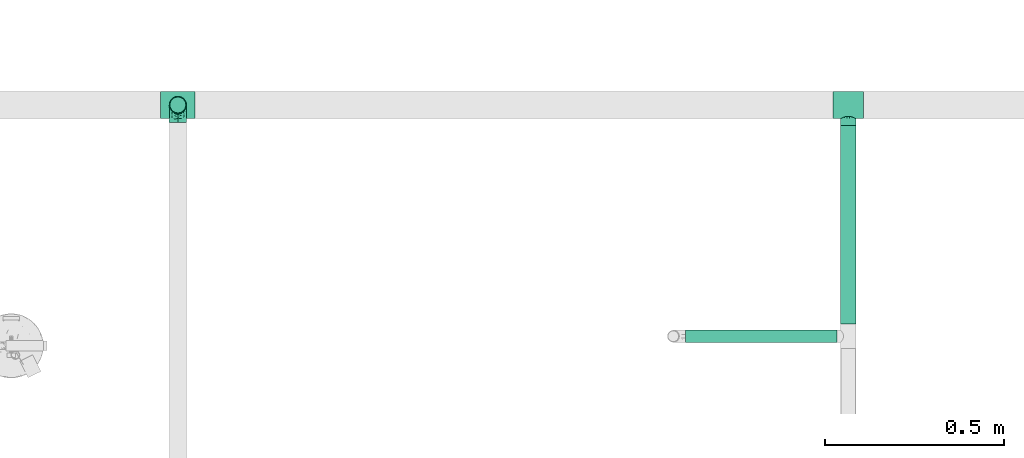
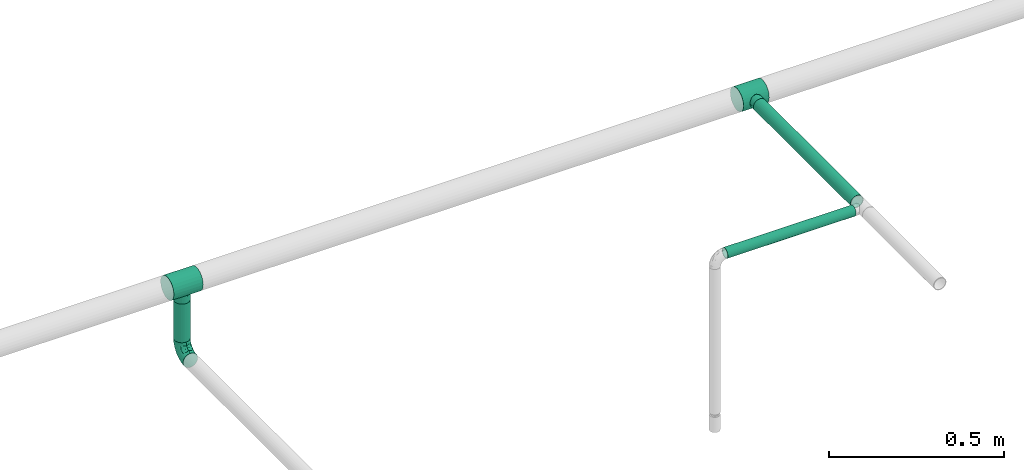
# One storey, part 4 of 95: 3 flow fittings, 3 flow segments.
"""IFC2X3 building model written with IfcOpenShell, lengths in millimetres."""

from ifc_helpers import new_model, entity, si_unit, converted_unit, derived_unit, direction, frame, origin_with_axes, origin_2d_with_axis, place, context, subcontext, project, spatial, hollow_circle, extrude, open_shell, surface_model, source, transform, mapped, type_object, element, save


model = new_model("IFC2X3")

# Units and contexts
model_context = context("Model", 3, precision=0.01, world=frame((0.0, 4.29681676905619e-09, 0.0)), true_north=direction((4.01073788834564e-13, 1.0)))
plan_context = context("Plan", 3, precision=0.01, world=frame((0.0, 4.29681676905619e-09, 0.0)), true_north=direction((4.01073788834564e-13, 1.0)))
body_context = subcontext(model_context, "Body", "Model", "MODEL_VIEW")
ifc_project = project(units=[converted_unit("PLANEANGLEUNIT", "DEGREE", entity("IfcPositiveLengthMeasure", 0.0174532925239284), si_unit("PLANEANGLEUNIT", "RADIAN"), dimensions=[0, 0, 0, 0, 0, 0, 0]), si_unit("AREAUNIT", "SQUARE_METRE"), si_unit("LENGTHUNIT", "METRE", prefix="MILLI"), si_unit("MASSUNIT", "GRAM", prefix="KILO"), si_unit("POWERUNIT", "WATT"), si_unit("PRESSUREUNIT", "PASCAL"), si_unit("FORCEUNIT", "NEWTON", prefix="KILO"), si_unit("ELECTRICVOLTAGEUNIT", "VOLT"), si_unit("ELECTRICCURRENTUNIT", "AMPERE"), si_unit("THERMODYNAMICTEMPERATUREUNIT", "DEGREE_CELSIUS"), si_unit("TIMEUNIT", "SECOND"), si_unit("VOLUMEUNIT", "CUBIC_METRE"), derived_unit("LINEARVELOCITYUNIT", [(si_unit("LENGTHUNIT", "METRE"), 1), (si_unit("TIMEUNIT", "SECOND"), -1)]), derived_unit("VOLUMETRICFLOWRATEUNIT", [(si_unit("VOLUMEUNIT", "CUBIC_METRE"), 1), (si_unit("TIMEUNIT", "SECOND"), -1)]), derived_unit("THERMALTRANSMITTANCEUNIT", [(si_unit("POWERUNIT", "WATT"), 1), (si_unit("THERMODYNAMICTEMPERATUREUNIT", "KELVIN"), -1), (si_unit("AREAUNIT", "SQUARE_METRE"), -1)]), derived_unit("SOUNDPRESSUREUNIT", [(si_unit("PRESSUREUNIT", "PASCAL"), 1)])], contexts=[model_context, plan_context])

# Site, building, storey
site_placement = place(None, frame((0.0, -4.29681676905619e-09, 0.0), z_axis=(0.0, 0.0, 1.0), x_axis=(1.0, 0.0, 0.0)))
site = spatial("IfcSite", under=ifc_project, at=site_placement, CompositionType="ELEMENT")
building_placement = place(site_placement, frame((0.0, 4.29681676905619e-09, 0.0), z_axis=(0.0, 0.0, 1.0), x_axis=(1.0, 0.0, 0.0)))
building = spatial("IfcBuilding", under=site, at=building_placement, Name="mc-building", CompositionType="ELEMENT")
storey_placement = place(building_placement, frame((0.0, 0.0, 210900.0), z_axis=(0.0, 0.0, 1.0), x_axis=(1.0, 0.0, 0.0)))
storey = spatial("IfcBuildingStorey", under=building, at=storey_placement, Name="Nivå F", CompositionType="ELEMENT", Elevation=210900.0)

# Flow fittings
pipe_fitting_type_1 = type_object("IfcPipeFittingType", Name="magi_pipe_fe_tee_centric_90_NOR", PredefinedType="JUNCTION")
shared_shape_1 = source(origin_with_axes(), body_context, "Body", "SurfaceModel", [
    surface_model("IfcShellBasedSurfaceModel", [(42.4, 0.0, 38.1), (42.4, -38.1, 0.0), (42.4, 19.05, 32.99557), (-42.4, 9.86101, -36.80177), (-42.4, 0.0, -38.1), (-42.4, 36.80177, -9.86101), (-42.4, 19.05, -32.99557), (-42.4, 32.99557, -19.05), (-42.4, 26.94077, -26.94077), (-42.4, -38.1, 0.0), (-42.4, -19.05, -32.99557), (-42.4, -26.94077, -26.94077), (-42.4, -9.86101, -36.80177), (-42.4, -32.99557, -19.05), (-42.4, -36.80177, -9.86101), (-42.4, 38.1, 0.0), (-42.4, 32.99557, 19.05), (-42.4, 36.80177, 9.86101), (-42.4, -36.80177, 9.86101), (-42.4, 19.05, 32.99557), (-42.4, 26.94077, 26.94077), (-42.4, 9.86101, 36.80177), (-42.4, 0.0, 38.1), (-42.4, -26.94077, 26.94077), (-42.4, -32.99557, 19.05), (-42.4, -9.86101, 36.80177), (-42.4, -19.05, 32.99557), (42.4, 26.94077, -26.94077), (42.4, 0.0, -38.1), (42.4, 9.86101, -36.80177), (42.4, 19.05, -32.99557), (42.4, 32.99557, -19.05), (42.4, 36.80177, -9.86101), (42.4, -9.86101, -36.80177), (42.4, -26.94077, -26.94077), (42.4, -19.05, -32.99557), (42.4, -32.99557, -19.05), (42.4, -36.80177, -9.86101), (42.4, 38.1, 0.0), (42.4, 36.80177, 9.86101), (42.4, 32.99557, 19.05), (42.4, 26.94077, 26.94077), (42.4, 9.86101, 36.80177), (42.4, -26.94077, 26.94077), (42.4, -32.99557, 19.05), (42.4, -36.80177, 9.86101), (42.4, -19.05, 32.99557), (42.4, -9.86101, 36.80177), (42.4, -37.45089, 4.9305), (19.87843, -37.38077, 7.36803), (20.53922, -37.74039, 3.68402), (16.19602, -35.55954, 13.67951), (3.75245, -31.87869, 20.86526), (21.2, -38.1, 0.0), (42.4, -34.89867, 14.4555), (10.67276, -33.40775, 18.31754), (-10.67466, -33.40836, 18.31643), (-42.4, -34.89867, 14.4555), (-16.20118, -35.56189, 13.6734), (-19.87911, -37.38113, 7.36619), (-42.4, -37.45089, 4.9305), (-20.53956, -37.74057, 3.6831), (-21.2, -38.1, 0.0), (-3.75861, -31.87942, 20.86415), (-42.4, -37.45089, -4.9305), (-19.87911, -37.38113, -7.36619), (-20.53956, -37.74057, -3.6831), (10.67276, -33.40775, -18.31754), (42.4, -34.89867, -14.4555), (16.19602, -35.55954, -13.67951), (20.53922, -37.74039, -3.68402), (42.4, -37.45089, -4.9305), (3.75245, -31.87869, -20.86526), (19.87843, -37.38077, -7.36803), (-3.75861, -31.87942, -20.86415), (-10.67466, -33.40836, -18.31643), (-16.20118, -35.56189, -13.6734), (-42.4, -34.89867, -14.4555), (14.99066, -57.15, -14.99066), (0.0, -57.15, -21.2), (5.48696, -57.15, -20.47763), (10.6, -57.15, -18.35974), (18.35974, -57.15, -10.6), (20.47763, -57.15, -5.48696), (-21.2, -57.15, 0.0), (-10.6, -57.15, 18.35974), (-5.48696, -57.15, -20.47763), (-14.99066, -57.15, -14.99066), (-10.6, -57.15, -18.35974), (-18.35974, -57.15, -10.6), (-20.47763, -57.15, -5.48696), (20.47763, -57.15, 5.48696), (18.35974, -57.15, 10.6), (10.6, -57.15, 18.35974), (14.99066, -57.15, 14.99066), (0.0, -57.15, 21.2), (5.48696, -57.15, 20.47763), (-14.99066, -57.15, 14.99066), (-18.35974, -57.15, 10.6), (-20.47763, -57.15, 5.48696), (-5.48696, -57.15, 20.47763), (21.2, -57.15, 0.0), (-7.21663, -32.64389, 19.59029), (-0.00308, -31.87905, 20.86471), (7.21261, -32.64322, 19.5914), (7.21261, -32.64322, -19.5914), (-0.00308, -31.87905, -20.86471), (-7.21663, -32.64389, -19.59029)], [open_shell([[[0, 1, 2]], [[3, 4, 5]], [[6, 3, 5]], [[5, 7, 8]], [[6, 5, 8]], [[9, 5, 4]], [[10, 11, 12]], [[11, 4, 12]], [[13, 14, 11]], [[9, 11, 14]], [[11, 9, 4]], [[9, 15, 5]], [[16, 17, 15]], [[18, 16, 9]], [[19, 16, 18]], [[20, 16, 19]], [[21, 19, 22]], [[23, 22, 24]], [[19, 18, 24]], [[25, 22, 26]], [[23, 26, 22]], [[24, 22, 19]], [[15, 9, 16]], [[27, 28, 29]], [[27, 29, 30]], [[27, 31, 32]], [[28, 27, 1]], [[1, 27, 32]], [[33, 34, 35]], [[33, 28, 34]], [[36, 1, 37]], [[1, 36, 34]], [[28, 1, 34]], [[32, 38, 1]], [[38, 39, 40]], [[40, 2, 1]], [[2, 40, 41]], [[42, 0, 2]], [[1, 43, 44]], [[44, 45, 1]], [[46, 0, 47]], [[46, 43, 1]], [[1, 0, 46]], [[40, 1, 38]], [[48, 45, 49]], [[1, 48, 50]], [[45, 51, 49]], [[44, 43, 52]], [[1, 50, 53]], [[51, 54, 55]], [[52, 55, 44]], [[48, 49, 50]], [[43, 23, 52]], [[55, 54, 44]], [[56, 57, 58]], [[59, 60, 61]], [[62, 61, 9]], [[59, 58, 18]], [[56, 63, 24]], [[51, 45, 54]], [[24, 57, 56]], [[24, 63, 23]], [[58, 57, 18]], [[63, 52, 23]], [[9, 61, 60]], [[59, 18, 60]], [[43, 26, 23]], [[22, 47, 0]], [[25, 46, 47]], [[21, 0, 42]], [[40, 39, 17]], [[20, 2, 41]], [[16, 41, 40]], [[42, 2, 19]], [[15, 39, 38]], [[26, 46, 25]], [[25, 47, 22]], [[21, 22, 0]], [[42, 19, 21]], [[19, 2, 20]], [[16, 20, 41]], [[17, 16, 40]], [[39, 15, 17]], [[46, 26, 43]], [[15, 38, 32]], [[31, 27, 8]], [[64, 65, 66]], [[5, 32, 31]], [[28, 33, 12]], [[3, 30, 29]], [[4, 29, 28]], [[30, 6, 27]], [[10, 33, 35]], [[67, 68, 69]], [[5, 31, 7]], [[15, 32, 5]], [[1, 70, 71]], [[7, 31, 8]], [[8, 27, 6]], [[6, 30, 3]], [[4, 3, 29]], [[12, 4, 28]], [[33, 10, 12]], [[35, 11, 10]], [[34, 36, 72]], [[9, 66, 62]], [[67, 72, 36]], [[68, 67, 36]], [[34, 72, 11]], [[53, 70, 1]], [[73, 69, 37]], [[73, 71, 70]], [[73, 37, 71]], [[37, 69, 68]], [[74, 75, 13]], [[76, 14, 77]], [[13, 11, 74]], [[76, 77, 75]], [[74, 11, 72]], [[76, 65, 14]], [[65, 64, 14]], [[66, 9, 64]], [[77, 13, 75]], [[34, 11, 35]], [[78, 79, 80]], [[78, 80, 81]], [[78, 82, 83]], [[78, 83, 79]], [[84, 79, 85]], [[86, 87, 88]], [[86, 79, 87]], [[89, 84, 90]], [[87, 79, 89]], [[79, 84, 89]], [[79, 83, 85]], [[91, 92, 83]], [[92, 93, 83]], [[93, 85, 83]], [[93, 92, 94]], [[95, 93, 96]], [[84, 97, 98]], [[99, 84, 98]], [[85, 95, 100]], [[85, 97, 84]], [[93, 95, 85]], [[83, 101, 91]], [[99, 61, 84]], [[58, 98, 97]], [[99, 98, 59]], [[97, 85, 56]], [[61, 62, 84]], [[59, 98, 58]], [[100, 63, 102]], [[56, 58, 97]], [[95, 52, 103]], [[93, 104, 96]], [[102, 85, 100]], [[102, 56, 85]], [[99, 59, 61]], [[96, 52, 95]], [[49, 92, 91]], [[50, 101, 53]], [[50, 49, 91]], [[94, 92, 51]], [[95, 63, 100]], [[104, 52, 96]], [[93, 55, 104]], [[93, 94, 55]], [[55, 94, 51]], [[51, 92, 49]], [[101, 50, 91]], [[103, 63, 95]], [[83, 70, 101]], [[69, 82, 78]], [[83, 82, 73]], [[78, 81, 67]], [[70, 53, 101]], [[73, 82, 69]], [[80, 72, 105]], [[67, 69, 78]], [[79, 74, 106]], [[88, 107, 86]], [[66, 84, 62]], [[105, 81, 80]], [[105, 67, 81]], [[75, 88, 87]], [[83, 73, 70]], [[90, 65, 89]], [[89, 76, 87]], [[66, 65, 90]], [[79, 72, 80]], [[86, 107, 74]], [[74, 79, 86]], [[75, 107, 88]], [[75, 87, 76]], [[76, 89, 65]], [[84, 66, 90]], [[106, 72, 79]]])]),
])
flow_fitting_1_placement = place(storey_placement, frame((527390.10162, 441860.92369, 4310.0), z_axis=(0.0, 0.0, -1.0), x_axis=(-1.0, 0.0, 0.0)))
element("IfcFlowFitting", 1, at=flow_fitting_1_placement, inside=storey, type_object=pipe_fitting_type_1, Name="magi_pipe_fe_tee_centric_90_NOR", context=body_context, shape_type="MappedRepresentation", body=[
    mapped(shared_shape_1, transform((0.0, 0.0, 0.0), scale=1.0)),
])
shared_shape_2 = source(origin_with_axes(), body_context, "Body", "SurfaceModel", [
    surface_model("IfcShellBasedSurfaceModel", [(-48.4, 9.86101, -36.80177), (-48.4, 0.0, -38.1), (-48.4, 36.80177, -9.86101), (-48.4, 19.05, -32.99557), (-48.4, 32.99557, -19.05), (-48.4, 26.94077, -26.94077), (-48.4, -38.1, 0.0), (-48.4, -19.05, -32.99557), (-48.4, -26.94077, -26.94077), (-48.4, -9.86101, -36.80177), (-48.4, -32.99557, -19.05), (-48.4, -36.80177, -9.86101), (-48.4, 38.1, 0.0), (-48.4, 32.99557, 19.05), (-48.4, 36.80177, 9.86101), (-48.4, -36.80177, 9.86101), (-48.4, 19.05, 32.99557), (-48.4, 26.94077, 26.94077), (-48.4, 9.86101, 36.80177), (-48.4, 0.0, 38.1), (-48.4, -26.94077, 26.94077), (-48.4, -32.99557, 19.05), (-48.4, -9.86101, 36.80177), (-48.4, -19.05, 32.99557), (48.4, 0.0, -38.1), (48.4, 9.86101, -36.80177), (48.4, 19.05, -32.99557), (48.4, 26.94077, -26.94077), (48.4, 32.99557, -19.05), (48.4, 36.80177, -9.86101), (48.4, -26.94077, -26.94077), (48.4, -38.1, 0.0), (48.4, -9.86101, -36.80177), (48.4, -19.05, -32.99557), (48.4, -32.99557, -19.05), (48.4, -36.80177, -9.86101), (48.4, 36.80177, 9.86101), (48.4, 32.99557, 19.05), (48.4, 19.05, 32.99557), (48.4, 0.0, 38.1), (48.4, 26.94077, 26.94077), (48.4, 9.86101, 36.80177), (48.4, -32.99557, 19.05), (48.4, -26.94077, 26.94077), (48.4, -36.80177, 9.86101), (48.4, -19.05, 32.99557), (48.4, -9.86101, 36.80177), (48.4, 38.1, 0.0), (22.67163, -37.14799, 8.46387), (24.2, -38.1, 0.0), (18.4612, -34.73882, 15.64686), (12.20123, -31.85656, 20.89904), (4.31503, -29.74205, 23.81219), (48.4, -34.89867, 14.4555), (-18.46661, -34.7417, 15.64047), (-48.4, -34.89867, 14.4555), (-24.2, -38.1, 0.0), (-22.67247, -37.1485, 8.46164), (-12.20341, -31.85739, 20.89777), (-4.32227, -29.7431, 23.81088), (12.20123, -31.85656, -20.89904), (-18.46661, -34.7417, -15.64047), (-48.4, -34.89867, -14.4555), (4.31503, -29.74205, -23.81219), (18.4612, -34.73882, -15.64686), (22.67163, -37.14799, -8.46387), (48.4, -34.89867, -14.4555), (-4.32227, -29.7431, -23.81088), (-12.20341, -31.85739, -20.89777), (-22.67247, -37.1485, -8.46164), (0.0, -57.15, -24.2), (6.26342, -57.15, -23.37541), (12.1, -57.15, -20.95781), (12.1, -57.15, 20.95781), (17.11198, -57.15, -17.11198), (20.95781, -57.15, -12.1), (23.37541, -57.15, -6.26342), (-12.1, -57.15, -20.95781), (-20.95781, -57.15, -12.1), (-17.11198, -57.15, -17.11198), (-6.26342, -57.15, -23.37541), (-23.37541, -57.15, -6.26342), (-24.2, -57.15, 0.0), (24.2, -57.15, 0.0), (23.37541, -57.15, 6.26342), (20.95781, -57.15, 12.1), (-23.37541, -57.15, 6.26342), (17.11198, -57.15, 17.11198), (6.26342, -57.15, 23.37541), (-17.11198, -57.15, 17.11198), (-20.95781, -57.15, 12.1), (-12.1, -57.15, 20.95781), (0.0, -57.15, 24.2), (-6.26342, -57.15, 23.37541), (-23.43623, -37.62425, 4.23082), (-0.00362, -29.74257, 23.81153), (8.25813, -30.7993, 22.35562), (23.43582, -37.62399, 4.23193), (23.43582, -37.62399, -4.23193), (-23.43623, -37.62425, -4.23082), (8.25813, -30.7993, -22.35562), (-0.00362, -29.74257, -23.81153)], [open_shell([[[0, 1, 2]], [[3, 0, 2]], [[2, 4, 5]], [[3, 2, 5]], [[6, 2, 1]], [[7, 8, 9]], [[8, 1, 9]], [[10, 11, 8]], [[6, 8, 11]], [[8, 6, 1]], [[6, 12, 2]], [[13, 14, 12]], [[13, 12, 15]], [[16, 13, 15]], [[17, 13, 16]], [[18, 16, 19]], [[20, 19, 21]], [[16, 15, 21]], [[22, 19, 23]], [[20, 23, 19]], [[21, 19, 16]], [[6, 15, 12]], [[24, 25, 26]], [[24, 26, 27]], [[27, 28, 29]], [[24, 27, 30]], [[31, 27, 29]], [[32, 30, 33]], [[32, 24, 30]], [[34, 31, 35]], [[31, 34, 30]], [[27, 31, 30]], [[29, 36, 31]], [[36, 37, 31]], [[31, 37, 38]], [[38, 39, 31]], [[38, 37, 40]], [[39, 38, 41]], [[42, 39, 43]], [[44, 31, 42]], [[45, 39, 46]], [[39, 45, 43]], [[39, 42, 31]], [[36, 29, 47]], [[31, 44, 48]], [[48, 49, 31]], [[44, 50, 48]], [[42, 43, 51]], [[51, 50, 42]], [[52, 51, 43]], [[43, 20, 52]], [[42, 50, 53]], [[54, 21, 55]], [[56, 57, 6]], [[15, 6, 57]], [[57, 54, 15]], [[58, 59, 20]], [[58, 21, 54]], [[21, 58, 20]], [[54, 55, 15]], [[59, 52, 20]], [[50, 44, 53]], [[43, 23, 20]], [[19, 46, 39]], [[22, 45, 46]], [[18, 39, 41]], [[37, 36, 14]], [[17, 38, 40]], [[13, 40, 37]], [[41, 38, 16]], [[12, 36, 47]], [[23, 45, 22]], [[22, 46, 19]], [[18, 19, 39]], [[41, 16, 18]], [[16, 38, 17]], [[13, 17, 40]], [[14, 13, 37]], [[36, 12, 14]], [[45, 23, 43]], [[12, 47, 29]], [[28, 27, 4]], [[2, 29, 28]], [[24, 32, 9]], [[0, 26, 25]], [[1, 25, 24]], [[26, 3, 27]], [[7, 32, 33]], [[4, 27, 5]], [[12, 29, 2]], [[2, 28, 4]], [[5, 27, 3]], [[26, 0, 3]], [[1, 0, 25]], [[9, 1, 24]], [[32, 7, 9]], [[33, 8, 7]], [[30, 34, 60]], [[61, 11, 62]], [[60, 63, 30]], [[34, 64, 60]], [[30, 63, 8]], [[35, 31, 65]], [[65, 64, 35]], [[49, 65, 31]], [[35, 64, 66]], [[67, 68, 8]], [[64, 34, 66]], [[10, 8, 68]], [[68, 61, 10]], [[67, 8, 63]], [[61, 69, 11]], [[69, 6, 11]], [[6, 69, 56]], [[61, 62, 10]], [[30, 8, 33]], [[70, 71, 72]], [[73, 70, 72]], [[74, 75, 76]], [[74, 76, 72]], [[73, 77, 70]], [[77, 78, 79]], [[77, 80, 70]], [[77, 81, 78]], [[81, 77, 82]], [[77, 73, 82]], [[83, 72, 76]], [[83, 84, 85]], [[83, 85, 73]], [[73, 86, 82]], [[73, 85, 87]], [[86, 73, 88]], [[86, 89, 90]], [[86, 88, 89]], [[91, 92, 93]], [[92, 91, 89]], [[88, 92, 89]], [[73, 72, 83]], [[86, 94, 82]], [[54, 90, 89]], [[86, 90, 57]], [[89, 91, 58]], [[94, 56, 82]], [[57, 90, 54]], [[58, 93, 59]], [[58, 54, 89]], [[92, 52, 95]], [[58, 91, 93]], [[73, 96, 88]], [[97, 83, 49]], [[86, 57, 94]], [[88, 52, 92]], [[48, 85, 84]], [[97, 48, 84]], [[85, 50, 87]], [[92, 59, 93]], [[96, 52, 88]], [[73, 51, 96]], [[73, 87, 51]], [[51, 87, 50]], [[50, 85, 48]], [[83, 97, 84]], [[95, 59, 92]], [[76, 98, 83]], [[64, 75, 74]], [[99, 69, 81]], [[76, 75, 65]], [[74, 72, 60]], [[98, 49, 83]], [[65, 75, 64]], [[71, 63, 100]], [[60, 64, 74]], [[70, 67, 101]], [[70, 63, 71]], [[100, 60, 72]], [[100, 72, 71]], [[76, 65, 98]], [[68, 77, 79]], [[68, 80, 77]], [[69, 78, 81]], [[79, 78, 61]], [[99, 82, 56]], [[67, 70, 80]], [[80, 68, 67]], [[101, 63, 70]], [[68, 79, 61]], [[61, 78, 69]], [[82, 99, 81]]])]),
])
flow_fitting_2_placement = place(storey_placement, frame((525517.79805, 441860.92369, 4310.0), z_axis=(0.0, 1.0, 0.0), x_axis=(-1.0, 0.0, 0.0)))
element("IfcFlowFitting", 2, at=flow_fitting_2_placement, inside=storey, type_object=pipe_fitting_type_1, Name="magi_pipe_fe_tee_centric_90_NOR", context=body_context, shape_type="MappedRepresentation", body=[
    mapped(shared_shape_2, transform((0.0, 0.0, 0.0), scale=1.0)),
])
pipe_fitting_type_2 = type_object("IfcPipeFittingType", Name="magi_pipe_fe_elbow_short_001", PredefinedType="BEND")
shared_shape_3 = source(origin_with_axes(), body_context, "Body", "SurfaceModel", [
    surface_model("IfcShellBasedSurfaceModel", [(-48.4, 6.26342, -23.37541), (-48.4, 0.0, -24.2), (-48.4, 17.11198, -17.11198), (-48.4, 12.1, -20.95781), (-48.4, 23.37541, -6.26342), (-48.4, 20.95781, -12.1), (-48.4, -12.1, -20.95781), (-48.4, -17.11198, -17.11198), (-48.4, -20.95781, -12.1), (-48.4, -6.26342, -23.37541), (-48.4, -23.37541, -6.26342), (-48.4, -24.2, 0.0), (-48.4, -23.37541, 6.26342), (-48.4, 23.37541, 6.26342), (-48.4, 6.26342, 23.37541), (-48.4, 20.95781, 12.1), (-48.4, 17.11198, 17.11198), (-48.4, 12.1, 20.95781), (-48.4, -12.1, 20.95781), (-48.4, -20.95781, 12.1), (-48.4, -17.11198, 17.11198), (-48.4, -6.26342, 23.37541), (-48.4, 0.0, 24.2), (-48.4, 24.2, 0.0), (-17.11198, 48.4, -17.11198), (0.0, 48.4, -24.2), (-6.26342, 48.4, -23.37541), (-12.1, 48.4, -20.95781), (-20.95781, 48.4, -12.1), (-23.37541, 48.4, -6.26342), (12.1, 48.4, -20.95781), (20.95781, 48.4, -12.1), (17.11198, 48.4, -17.11198), (6.26342, 48.4, -23.37541), (23.37541, 48.4, -6.26342), (23.37541, 48.4, 6.26342), (24.2, 48.4, 0.0), (-23.37541, 48.4, 6.26342), (-6.26342, 48.4, 23.37541), (-17.11198, 48.4, 17.11198), (-20.95781, 48.4, 12.1), (-12.1, 48.4, 20.95781), (12.1, 48.4, 20.95781), (17.11198, 48.4, 17.11198), (20.95781, 48.4, 12.1), (0.0, 48.4, 24.2), (6.26342, 48.4, 23.37541), (-24.2, 48.4, 0.0), (-35.50368, -18.80076, 13.58523), (-31.77913, -13.9618, 18.03279), (-34.50859, -21.43683, 0.0), (-21.39243, -15.41147, 12.21413), (-32.16301, -21.12203, 7.54749), (21.12203, 32.16301, 7.54749), (17.07617, 18.95745, 6.20374), (18.67365, 20.61718, 0.0), (-23.65565, 38.62451, 10.51816), (-20.21592, 37.67665, 15.89859), (-35.56981, -9.15108, 21.77256), (-36.96985, -3.20584, 23.78612), (-33.88786, 3.70953, 24.15875), (-8.84062, -10.8048, 0.0), (-18.95745, -17.07617, 6.20374), (-20.61718, -18.67365, 0.0), (-18.69715, -5.87343, 20.10488), (-24.09336, -0.21717, 23.45593), (-2.08262, -4.09091, 10.90396), (-0.40561, 0.49936, 14.45569), (-8.22634, -5.79523, 14.90978), (-37.83027, 20.17367, 15.88169), (-8.41063, 23.79825, 24.15658), (-17.92529, 17.92529, 23.61199), (-14.40991, 10.5752, 24.07534), (-41.86919, 14.6551, 19.71874), (-9.03342, 41.7434, 22.66763), (-3.31671, 36.19978, 24.14056), (-38.63654, 23.65174, 10.51655), (-38.25939, 25.77657, 5.32075), (-30.0475, 30.0475, 9.04616), (-37.30448, 9.49113, 22.86036), (-6.31688, 16.20853, 23.76192), (-12.02449, 4.43954, 22.59792), (-2.47225, 13.07459, 22.23951), (-4.32281, 4.32281, 19.78555), (13.9618, 31.77913, 18.03279), (15.41147, 21.39243, 12.21413), (18.80076, 35.50367, 13.58523), (-25.72741, 16.42033, 22.38358), (-26.59277, 10.36599, 23.76692), (3.20584, 36.96985, 23.78612), (9.15107, 35.56981, 21.77256), (5.87343, 18.69715, 20.10488), (21.43683, 34.50859, 0.0), (-23.74657, 5.93004, 24.18967), (-22.40302, 25.55556, 19.88516), (-33.3245, 16.42738, 20.3789), (-25.47357, 39.04012, 5.19167), (-30.32947, 31.74105, 4.25904), (11.04589, 19.60124, 16.55181), (-27.44219, 36.3, 0.0), (-10.46605, 32.79159, 23.04712), (-13.80953, 25.05111, 23.26361), (-17.54489, 31.27863, 20.33941), (-19.27982, 23.42922, 22.01925), (-14.78447, 40.57947, 19.81913), (-19.60124, -11.04589, 16.55181), (-25.09785, 32.07921, 13.69695), (-25.5093, 27.02629, 17.14196), (-31.08127, 26.00324, 13.49448), (0.21717, 24.09336, 23.45593), (5.51075, 8.40547, 15.32867), (-11.48597, -10.80284, 11.35932), (1.43689, -3.14326, 6.54995), (7.34882, 4.31024, 8.4514), (7.50574, 2.51208, 3.62663), (12.46453, 10.09451, 5.71609), (12.1504, 12.55391, 10.15678), (-36.3, 27.44219, 0.0), (-6.52237, -9.62364, 7.02633), (2.93595, -2.93595, 0.0), (10.8048, 8.84062, 0.0), (-19.60124, -11.04589, -16.55181), (-31.77913, -13.9618, -18.03279), (-18.69715, -5.87343, -20.10488), (-21.39243, -15.41147, -12.21413), (-37.67665, 20.21591, -15.89859), (-40.57947, 14.78447, -19.81913), (-39.04012, 25.47357, -5.19167), (-32.16301, -21.12203, -7.54749), (-30.0475, 30.0475, -9.04616), (-38.62452, 23.65565, -10.51816), (-18.95745, -17.07617, -6.20374), (-23.42922, 19.27982, -22.01926), (-25.05111, 13.80953, -23.26361), (-31.27863, 17.54489, -20.33941), (-14.6551, 41.86919, -19.71874), (-20.17367, 37.83026, -15.88169), (9.15108, 35.56981, -21.77256), (5.87343, 18.69715, -20.10488), (0.21717, 24.09336, -23.45593), (-41.7434, 9.03342, -22.66763), (-35.50368, -18.80076, -13.58523), (-35.56981, -9.15108, -21.77256), (-16.42033, 25.72741, -22.38358), (-9.49113, 37.30447, -22.86036), (-10.36599, 26.59277, -23.76692), (-36.96985, -3.20584, -23.78612), (-23.79826, 8.41063, -24.15658), (-17.92529, 17.92529, -23.61199), (-10.5752, 14.40991, -24.07534), (-36.19978, 3.31671, -24.14056), (-25.77657, 38.25939, -5.32075), (-23.65174, 38.63654, -10.51655), (-32.79159, 10.46605, -23.04712), (-31.74105, 30.32946, -4.25904), (-5.93004, 23.74657, -24.18967), (-25.55556, 22.40302, -19.88516), (-16.42738, 33.3245, -20.3789), (3.20584, 36.96985, -23.78612), (-3.70953, 33.88785, -24.15875), (18.80076, 35.50367, -13.58523), (13.9618, 31.77913, -18.03279), (7.50574, 2.51208, -3.62663), (12.46453, 10.09451, -5.71609), (-16.20853, 6.31688, -23.76192), (-4.43954, 12.02449, -22.59792), (-13.07459, 2.47225, -22.23951), (1.43689, -3.14326, -6.54995), (-6.52237, -9.62364, -7.02632), (-2.08262, -4.09091, -10.90396), (15.41147, 21.39243, -12.21413), (21.12203, 32.16301, -7.54749), (17.07617, 18.95745, -6.20374), (-32.07921, 25.09785, -13.69695), (11.04589, 19.60124, -16.55181), (12.1504, 12.55391, -10.15678), (5.51075, 8.40547, -15.32867), (-27.02629, 25.5093, -17.14196), (-26.00324, 31.08127, -13.49448), (-24.09336, -0.21717, -23.45593), (-4.32281, 4.32281, -19.78555), (-8.22634, -5.79524, -14.90978), (-11.48597, -10.80284, -11.35931), (-0.40561, 0.49936, -14.45569), (7.34882, 4.31024, -8.4514)], [open_shell([[[0, 1, 2]], [[3, 0, 2]], [[4, 5, 2]], [[6, 2, 1]], [[4, 2, 6]], [[7, 8, 6]], [[1, 9, 6]], [[8, 10, 6]], [[6, 10, 4]], [[11, 12, 10]], [[13, 4, 10]], [[14, 13, 10]], [[15, 13, 16]], [[13, 14, 17]], [[16, 13, 17]], [[10, 18, 14]], [[19, 20, 12]], [[20, 10, 12]], [[21, 22, 18]], [[20, 18, 10]], [[18, 22, 14]], [[23, 4, 13]], [[24, 25, 26]], [[24, 26, 27]], [[24, 28, 29]], [[25, 24, 30]], [[30, 24, 29]], [[30, 31, 32]], [[30, 33, 25]], [[30, 34, 31]], [[29, 34, 30]], [[34, 35, 36]], [[34, 29, 37]], [[34, 37, 38]], [[39, 37, 40]], [[41, 38, 37]], [[41, 37, 39]], [[38, 42, 34]], [[35, 43, 44]], [[35, 34, 43]], [[42, 45, 46]], [[34, 42, 43]], [[38, 45, 42]], [[37, 29, 47]], [[20, 48, 49]], [[12, 11, 50]], [[51, 48, 52]], [[53, 54, 55]], [[48, 20, 19]], [[12, 52, 19]], [[40, 56, 57]], [[49, 18, 20]], [[49, 58, 18]], [[22, 59, 60]], [[61, 62, 63]], [[58, 64, 65]], [[66, 67, 68]], [[15, 16, 69]], [[70, 71, 72]], [[17, 73, 16]], [[21, 59, 22]], [[38, 74, 75]], [[22, 60, 14]], [[15, 69, 76]], [[16, 73, 69]], [[23, 13, 77]], [[13, 15, 76]], [[77, 76, 78]], [[14, 79, 17]], [[80, 81, 82]], [[68, 83, 64]], [[84, 43, 42]], [[85, 86, 84]], [[87, 79, 88]], [[18, 58, 21]], [[45, 89, 46]], [[53, 35, 44]], [[45, 38, 75]], [[84, 90, 91]], [[44, 86, 53]], [[92, 35, 53]], [[86, 44, 43]], [[90, 42, 46]], [[53, 55, 92]], [[88, 93, 72]], [[54, 53, 85]], [[87, 94, 95]], [[78, 96, 97]], [[98, 84, 91]], [[99, 96, 47]], [[79, 14, 60]], [[96, 78, 56]], [[62, 52, 63]], [[57, 39, 40]], [[100, 70, 75]], [[101, 102, 103]], [[12, 50, 52]], [[104, 41, 39]], [[74, 38, 41]], [[57, 102, 104]], [[105, 64, 49]], [[90, 84, 42]], [[40, 37, 56]], [[56, 106, 57]], [[102, 57, 107]], [[95, 107, 69]], [[76, 108, 78]], [[100, 101, 70]], [[89, 75, 109]], [[64, 58, 49]], [[63, 52, 50]], [[59, 58, 65]], [[105, 49, 51]], [[64, 83, 81]], [[89, 90, 46]], [[36, 35, 92]], [[109, 82, 91]], [[109, 91, 90]], [[91, 83, 110]], [[111, 68, 105]], [[66, 68, 111]], [[62, 51, 52]], [[66, 112, 113]], [[114, 115, 113]], [[98, 85, 84]], [[52, 48, 19]], [[49, 48, 51]], [[84, 86, 43]], [[53, 86, 85]], [[88, 79, 60]], [[73, 79, 95]], [[96, 56, 37]], [[78, 108, 106]], [[87, 103, 94]], [[100, 74, 104]], [[108, 69, 107]], [[78, 97, 77]], [[88, 72, 71]], [[109, 75, 70]], [[81, 72, 65]], [[70, 72, 80]], [[75, 89, 45]], [[90, 89, 109]], [[58, 59, 21]], [[60, 59, 65]], [[67, 83, 68]], [[110, 113, 116]], [[88, 60, 93]], [[87, 88, 71]], [[103, 87, 71]], [[79, 87, 95]], [[101, 103, 71]], [[94, 103, 102]], [[47, 96, 37]], [[96, 99, 97]], [[99, 117, 97]], [[97, 117, 77]], [[23, 77, 117]], [[13, 76, 77]], [[60, 65, 93]], [[65, 72, 93]], [[70, 101, 71]], [[102, 101, 100]], [[69, 108, 76]], [[106, 108, 107]], [[57, 106, 107]], [[78, 106, 56]], [[57, 104, 39]], [[100, 104, 102]], [[102, 107, 94]], [[95, 94, 107]], [[64, 81, 65]], [[82, 81, 83]], [[91, 82, 83]], [[80, 82, 109]], [[70, 80, 109]], [[81, 80, 72]], [[79, 73, 17]], [[69, 73, 95]], [[104, 74, 41]], [[75, 74, 100]], [[62, 61, 118]], [[111, 62, 118]], [[113, 115, 116]], [[119, 118, 61]], [[111, 105, 51]], [[113, 112, 114]], [[120, 55, 54]], [[68, 64, 105]], [[91, 110, 98]], [[116, 98, 110]], [[62, 111, 51]], [[66, 111, 118]], [[112, 66, 118]], [[67, 113, 110]], [[118, 119, 112]], [[114, 112, 119]], [[119, 120, 114]], [[115, 120, 54]], [[120, 115, 114]], [[116, 54, 85]], [[54, 116, 115]], [[116, 85, 98]], [[113, 67, 66]], [[83, 67, 110]], [[121, 122, 123]], [[122, 121, 124]], [[5, 125, 2]], [[2, 126, 3]], [[117, 127, 23]], [[50, 10, 128]], [[127, 129, 130]], [[128, 131, 63]], [[132, 133, 134]], [[24, 135, 136]], [[137, 138, 139]], [[3, 140, 0]], [[128, 8, 141]], [[142, 6, 9]], [[128, 63, 50]], [[5, 4, 130]], [[8, 7, 141]], [[143, 144, 145]], [[146, 9, 1]], [[147, 148, 149]], [[8, 128, 10]], [[124, 141, 122]], [[150, 1, 0]], [[151, 152, 129]], [[125, 134, 126]], [[153, 147, 150]], [[127, 154, 129]], [[145, 155, 149]], [[47, 29, 151]], [[143, 156, 157]], [[152, 29, 28]], [[25, 158, 159]], [[122, 7, 6]], [[24, 27, 135]], [[144, 27, 26]], [[32, 160, 161]], [[25, 33, 158]], [[120, 162, 163]], [[130, 125, 5]], [[24, 136, 28]], [[0, 140, 150]], [[30, 161, 137]], [[142, 122, 6]], [[25, 159, 26]], [[164, 165, 166]], [[167, 168, 169]], [[31, 160, 32]], [[161, 30, 32]], [[170, 160, 171]], [[131, 128, 124]], [[36, 92, 34]], [[34, 92, 171]], [[172, 171, 55]], [[34, 171, 31]], [[144, 26, 159]], [[130, 173, 125]], [[174, 175, 176]], [[136, 152, 28]], [[30, 137, 33]], [[122, 142, 123]], [[134, 125, 177]], [[157, 177, 136]], [[152, 178, 129]], [[153, 133, 147]], [[146, 150, 179]], [[146, 142, 9]], [[11, 10, 50]], [[179, 166, 123]], [[179, 123, 142]], [[123, 180, 181]], [[138, 137, 161]], [[55, 171, 92]], [[158, 137, 139]], [[174, 161, 170]], [[138, 180, 165]], [[180, 138, 176]], [[124, 121, 182]], [[176, 183, 180]], [[61, 131, 168]], [[169, 168, 182]], [[172, 170, 171]], [[122, 141, 7]], [[128, 141, 124]], [[171, 160, 31]], [[161, 160, 170]], [[145, 144, 159]], [[135, 144, 157]], [[127, 130, 4]], [[129, 178, 173]], [[143, 132, 156]], [[153, 140, 126]], [[178, 136, 177]], [[129, 154, 151]], [[145, 149, 148]], [[179, 150, 147]], [[165, 149, 139]], [[147, 149, 164]], [[150, 146, 1]], [[142, 146, 179]], [[137, 158, 33]], [[159, 158, 139]], [[174, 138, 161]], [[184, 169, 183]], [[145, 159, 155]], [[143, 145, 148]], [[132, 143, 148]], [[144, 143, 157]], [[133, 132, 148]], [[156, 132, 134]], [[23, 127, 4]], [[127, 117, 154]], [[117, 99, 154]], [[154, 99, 151]], [[47, 151, 99]], [[29, 152, 151]], [[159, 139, 155]], [[139, 149, 155]], [[147, 133, 148]], [[134, 133, 153]], [[136, 178, 152]], [[173, 178, 177]], [[125, 173, 177]], [[129, 173, 130]], [[125, 126, 2]], [[153, 126, 134]], [[134, 177, 156]], [[157, 156, 177]], [[138, 165, 139]], [[166, 165, 180]], [[123, 166, 180]], [[164, 166, 179]], [[147, 164, 179]], [[165, 164, 149]], [[144, 135, 27]], [[136, 135, 157]], [[126, 140, 3]], [[150, 140, 153]], [[182, 131, 124]], [[168, 119, 61]], [[119, 167, 162]], [[63, 131, 61]], [[172, 163, 175]], [[172, 55, 120]], [[123, 181, 121]], [[182, 121, 181]], [[175, 174, 170]], [[176, 138, 174]], [[169, 182, 181]], [[131, 182, 168]], [[183, 169, 181]], [[167, 169, 184]], [[162, 167, 184]], [[119, 168, 167]], [[163, 162, 184]], [[120, 119, 162]], [[175, 163, 184]], [[120, 163, 172]], [[176, 175, 184]], [[172, 175, 170]], [[180, 183, 181]], [[184, 183, 176]]])]),
])
flow_fitting_3_placement = place(storey_placement, frame((525517.79805, 441860.92369, 4070.0), z_axis=(-1.0, 0.0, 0.0), x_axis=(0.0, 0.0, -1.0)))
element("IfcFlowFitting", 3, at=flow_fitting_3_placement, inside=storey, type_object=pipe_fitting_type_2, Name="magi_pipe_fe_elbow_short_001", context=body_context, shape_type="MappedRepresentation", body=[
    mapped(shared_shape_3, transform((0.0, 0.0, 0.0), scale=1.0)),
])

# Flow segments
pipe_segment_type = type_object("IfcPipeSegmentType", Name="Stålrør normaltykke", PredefinedType="RIGIDSEGMENT")
shared_shape_4 = source(origin_with_axes(), body_context, "Body", "SweptSolid", [
    extrude(hollow_circle(Radius=21.2, WallThickness=2.0, at=origin_2d_with_axis()), frame((0.0, 0.0, 0.0), z_axis=(1.0, 0.0, 0.0), x_axis=(0.0, 1.0, 0.0)), (0.0, 0.0, 1.0), 555.3),
])
flow_segment_1_placement = place(storey_placement, frame((527390.10162, 441803.77369, 4310.0), z_axis=(0.0, 0.0, 1.0), x_axis=(0.0, -1.0, 0.0)))
element("IfcFlowSegment", 4, at=flow_segment_1_placement, inside=storey, type_object=pipe_segment_type, Name="Stålrør normaltykke", context=body_context, shape_type="MappedRepresentation", body=[
    mapped(shared_shape_4, transform((0.0, 0.0, 0.0), scale=1.0)),
])
shared_shape_5 = source(origin_with_axes(), body_context, "Body", "SweptSolid", [
    extrude(hollow_circle(Radius=16.9, WallThickness=2.0, at=origin_2d_with_axis()), frame((0.0, 0.0, 0.0), z_axis=(1.0, 0.0, 0.0), x_axis=(0.0, 1.0, 0.0)), (0.0, 0.0, 1.0), 423.0),
])
flow_segment_2_placement = place(storey_placement, frame((527358.30162, 441214.84363, 4310.0), z_axis=(0.0, 0.0, 1.0), x_axis=(-1.0, 0.0, 0.0)))
element("IfcFlowSegment", 5, at=flow_segment_2_placement, inside=storey, type_object=pipe_segment_type, Name="Stålrør normaltykke", context=body_context, shape_type="MappedRepresentation", body=[
    mapped(shared_shape_5, transform((0.0, 0.0, 0.0), scale=1.0)),
])
shared_shape_6 = source(origin_with_axes(), body_context, "Body", "SweptSolid", [
    extrude(hollow_circle(Radius=24.1, WallThickness=2.0, at=origin_2d_with_axis()), frame((0.0, 0.0, 0.0), z_axis=(1.0, 0.0, 0.0), x_axis=(0.0, 1.0, 0.0)), (0.0, 0.0, 1.0), 134.4),
])
flow_segment_3_placement = place(storey_placement, frame((525517.79805, 441860.92369, 4252.85000000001), z_axis=(0.0, -1.0, 0.0), x_axis=(0.0, 0.0, -1.0)))
element("IfcFlowSegment", 6, at=flow_segment_3_placement, inside=storey, type_object=pipe_segment_type, Name="Stålrør normaltykke", context=body_context, shape_type="MappedRepresentation", body=[
    mapped(shared_shape_6, transform((0.0, 0.0, 0.0), scale=1.0)),
])

save(model, "model.ifc")
